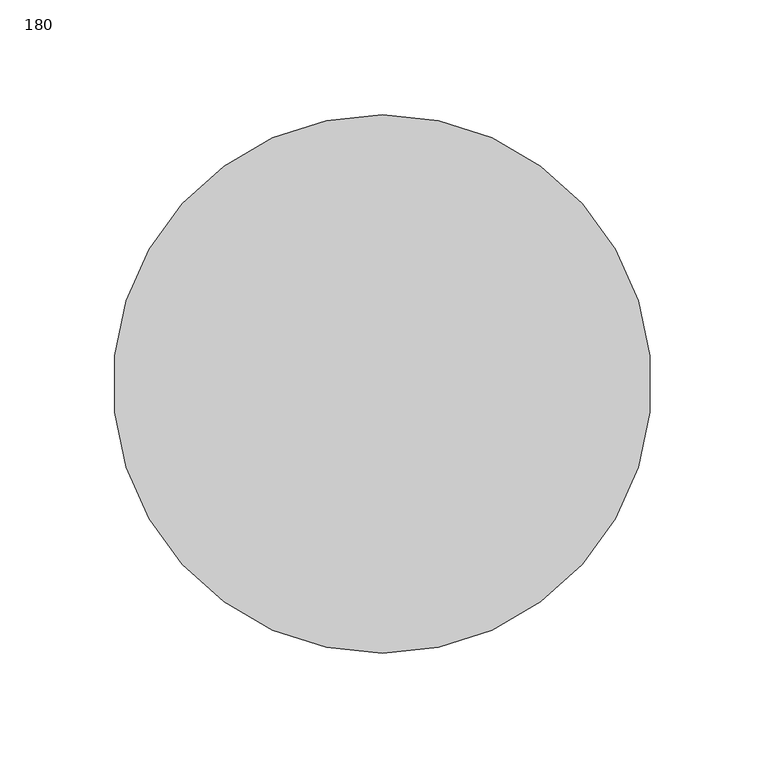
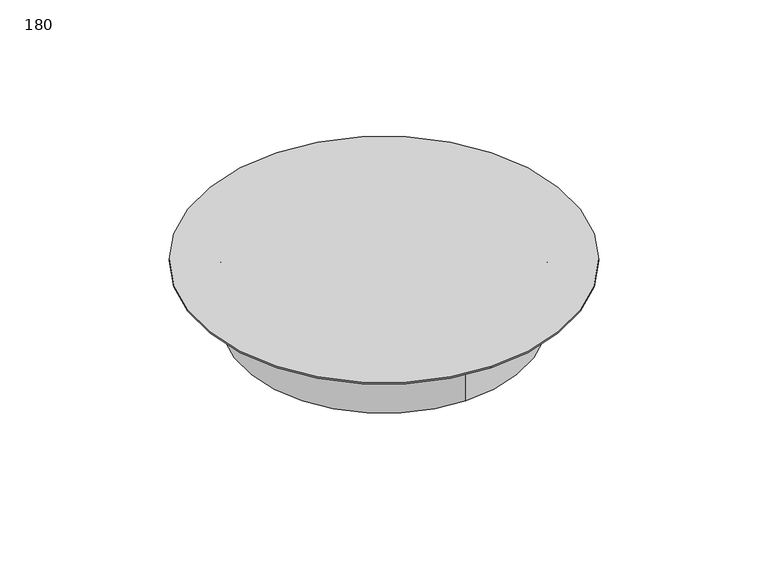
"""IFC4 building model written with IfcOpenShell, lengths in millimetres: duct fitting geometry, VE-Zagnieżdżone-Akcesorium-ParaForma-Harmann-DAF-Króciec_Przyłączeniowy : 180."""

from ifc_helpers import new_model, si_unit, point, frame, origin, origin_2d, place, context, project, spatial, circle_curve, trimmed, segment, composite_curve, outline, extrude, source, transform, mapped, element, save


def duct_fitting_180_5dd8c60e(model_context):
    return source(origin(), model_context, "Body", "SweptSolid", [
        extrude(outline(composite_curve([segment(trimmed(circle_curve(origin_2d(), 89.5), [point((0.0, -89.5))], [point((0.0, 89.5))], False, "CARTESIAN"), True, "CONTINUOUS"), segment(trimmed(circle_curve(origin_2d(), 89.5), [point((0.0, 89.5))], [point((0.0, -89.5))], False, "CARTESIAN"), True, "CONTINUOUS")], self_intersect=False)), frame((0.0, 0.0, -40.0), z_axis=(0.0, 0.0, 1.0), x_axis=(1.0, 0.0, 0.0)), (0.0, 0.0, 1.0), 39.0),
        extrude(outline(composite_curve([segment(trimmed(circle_curve(origin_2d(), 117.5), [point((0.0, -117.5))], [point((0.0, 117.5))], False, "CARTESIAN"), True, "CONTINUOUS"), segment(trimmed(circle_curve(origin_2d(), 117.5), [point((0.0, 117.5))], [point((0.0, -117.5))], False, "CARTESIAN"), True, "CONTINUOUS")], self_intersect=False)), frame((0.0, 0.0, -1.0), z_axis=(0.0, 0.0, 1.0), x_axis=(1.0, 0.0, 0.0)), (0.0, 0.0, 1.0), 1.0),
    ])


if __name__ == "__main__":
    model = new_model("IFC4")
    model_context = context("Model", 3, world=origin())
    ifc_project = project(units=[si_unit("LENGTHUNIT", "METRE", prefix="MILLI")], contexts=[model_context])
    site = spatial("IfcSite", under=ifc_project)
    building = spatial("IfcBuilding", under=site)
    placement = place(None, origin())
    duct_fitting_180_shape = duct_fitting_180_5dd8c60e(model_context)
    element("IfcDuctFitting", 1, ObjectType="VE-Zagnieżdżone-Akcesorium-ParaForma-Harmann-DAF-Króciec_Przyłączeniowy : 180", at=placement, inside=building, context=model_context, shape_type="MappedRepresentation", body=[
        mapped(duct_fitting_180_shape, transform((0.0, 0.0, 0.0), x_axis=(1.0, 0.0, 0.0), y_axis=(0.0, 1.0, 0.0), z_axis=(0.0, 0.0, 1.0))),
    ])
    save(model, "model.ifc")
